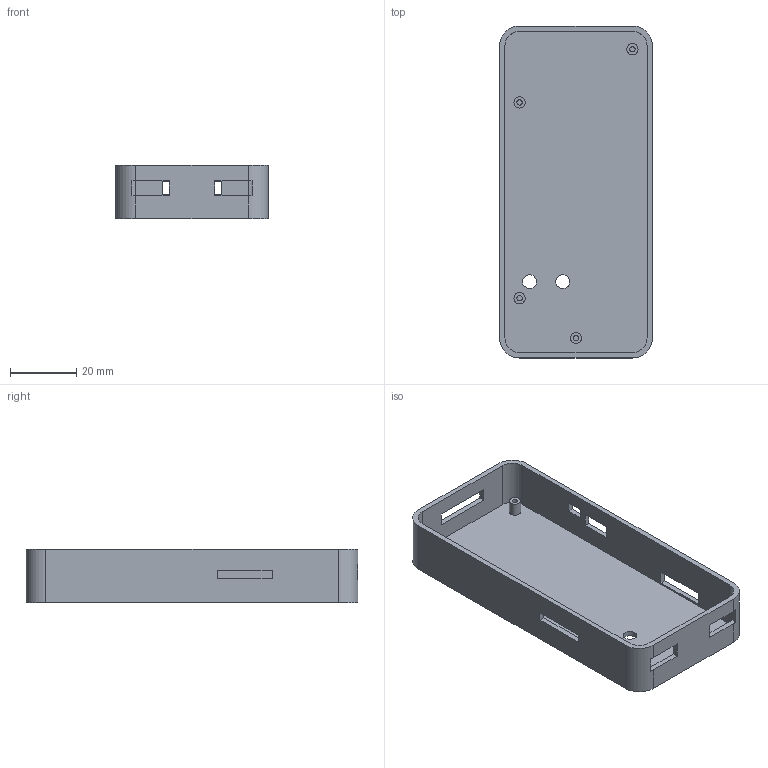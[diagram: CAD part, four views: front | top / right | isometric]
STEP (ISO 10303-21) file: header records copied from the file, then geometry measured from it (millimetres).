
FILE_DESCRIPTION(('Open CASCADE Model'),'2;1');
FILE_NAME('Open CASCADE Shape Model','2026-09-10T00:40:42',('Author'),( 'Open CASCADE'),'Open CASCADE STEP processor 7.8','Open CASCADE 7.8' ,'Unknown');
FILE_SCHEMA(('AUTOMOTIVE_DESIGN { 1 0 10303 214 1 1 1 1 }'));
Length unit declared in the file: millimetre
Products named in the file (1): Open CASCADE STEP translator 7.8 1
Bounding box: 46 x 100 x 16 mm (x, y, z)
Volume: 13221.5 mm3; surface area: 17522.6 mm2
Topology: 1 solids, 1 shells, 65 faces, 174 edges, 116 vertices
Faces by surface type: plane 47, cylinder 18
Full cylindrical faces by diameter (mm): 1.6 x4, 3.4 x4, 4.2 x2
Entity records: 4216 total; most frequent: CARTESIAN_POINT 828, DIRECTION 574, ORIENTED_EDGE 348, PCURVE 348, DEFINITIONAL_REPRESENTATION 348, LINE 310, VECTOR 310, EDGE_CURVE 174
